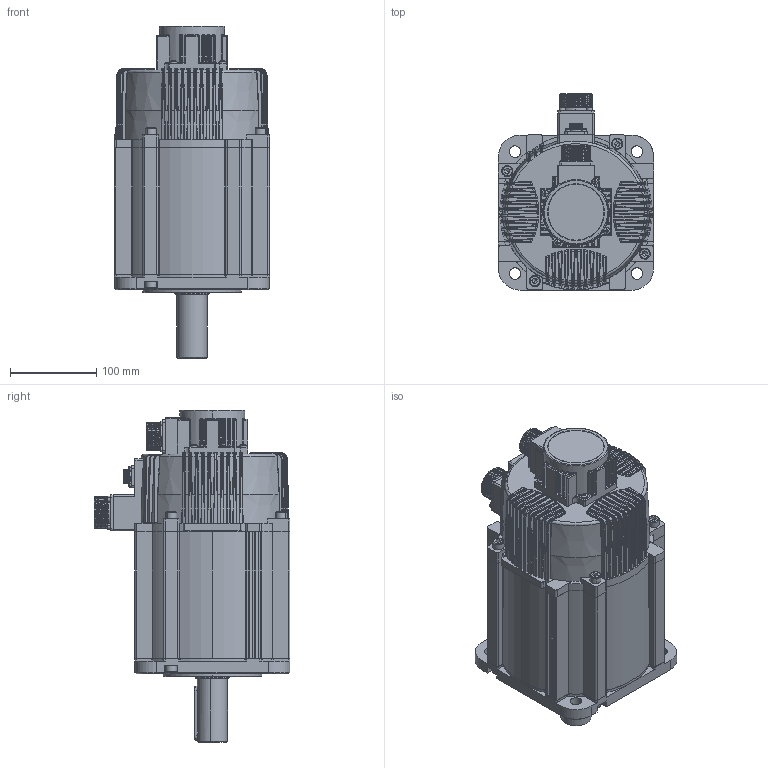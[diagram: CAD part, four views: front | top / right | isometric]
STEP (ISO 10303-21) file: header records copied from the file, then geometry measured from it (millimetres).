
FILE_DESCRIPTION (( 'STEP AP203' ), '1' );
FILE_NAME ('WB180ST-Z1M35015.STEP', '2022-09-06T10:28:39', ( '' ), ( '' ), 'SwSTEP 2.0', 'SolidWorks 2018', '' );
FILE_SCHEMA (( 'CONFIG_CONTROL_DESIGN' ));
Length unit declared in the file: millimetre
Products named in the file (1): WB180ST-Z1M35015
Bounding box: 180 x 227.5 x 385.4 mm (x, y, z)
Volume: 2256428 mm3; surface area: 653400.3 mm2
Topology: 35 solids, 35 shells, 3087 faces, 7831 edges, 4796 vertices
Faces by surface type: cylinder 977, plane 923, bspline 611, torus 257, cone 242, sphere 77
Entity records: 134750 total; most frequent: CARTESIAN_POINT 68104, ORIENTED_EDGE 15320, DIRECTION 12020, EDGE_CURVE 7660, AXIS2_PLACEMENT_3D 4929, VERTEX_POINT 4781, EDGE_LOOP 3299, FACE_OUTER_BOUND 3087
